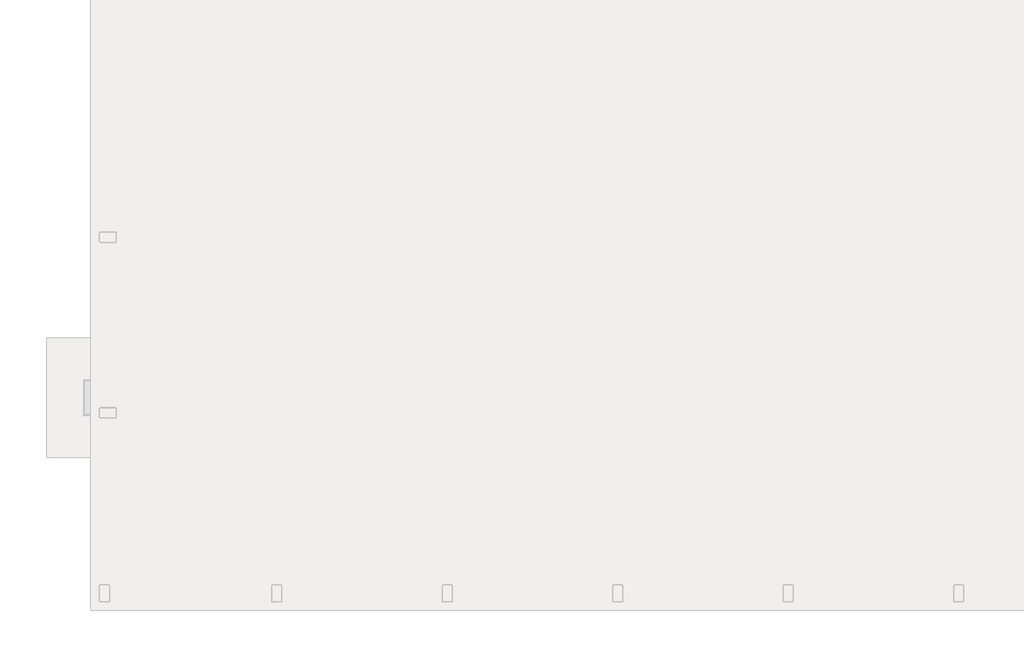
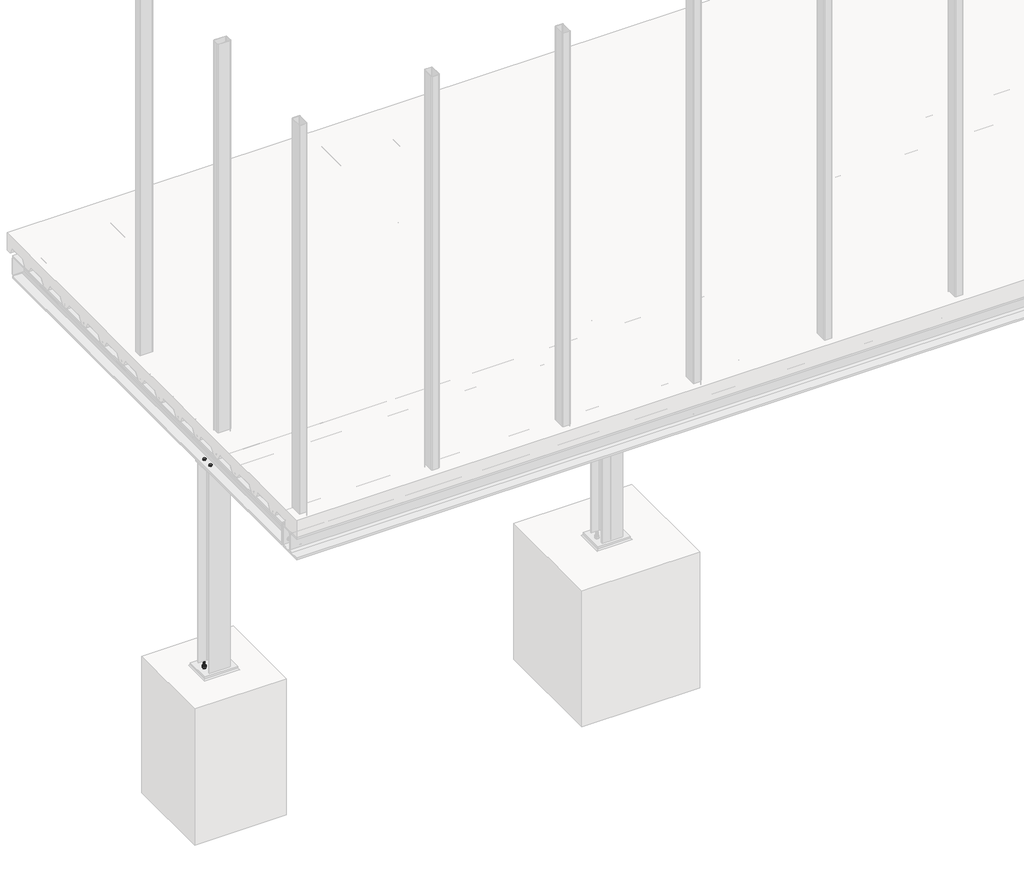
# One storey, part 7 of 36: 10 proxies.
"""IFC4 building model written with IfcOpenShell, lengths in millimetres."""

from ifc_helpers import new_model, si_unit, point, frame, frame_2d, origin, place, context, project, spatial, polyline, circle_curve, trimmed, segment, composite_curve, outline, extrude, element, save

model = new_model("IFC4")

# Units and contexts
model_context = context("Model", 3, world=origin())
ifc_project = project(units=[si_unit("LENGTHUNIT", "METRE", prefix="MILLI")], contexts=[model_context])

# Site, building, storey
site = spatial("IfcSite", under=ifc_project)
building = spatial("IfcBuilding", under=site)
storey = spatial("IfcBuildingStorey", under=building, Name="Základy", Elevation=-1200.0)

# Proxies
placement = place(None, origin())
element("IfcBuildingElementProxy", 1, Name="PLECH", ObjectType="PLECH", at=placement, inside=storey, context=model_context, shape_type="SweptSolid", body=[
    extrude(outline(polyline([(2940.0, 1200.0), (2940.0, 1320.0), (2950.0, 1320.0), (2950.0, 1200.0), (2940.0, 1200.0)])), frame((0.0, 0.0, -299.0), z_axis=(0.0, 0.0, 1.0), x_axis=(1.0, 0.0, 0.0)), (0.0, 0.0, 1.0), 98.0),
])
element("IfcBuildingElementProxy", 2, Name="PLECH", ObjectType="PLECH", at=placement, inside=storey, context=model_context, shape_type="SweptSolid", body=[
    extrude(outline(polyline([(3150.0, 1200.0), (3150.0, 1320.0), (3160.0, 1320.0), (3160.0, 1200.0), (3150.0, 1200.0)])), frame((0.0, 0.0, -299.0), z_axis=(0.0, 0.0, 1.0), x_axis=(1.0, 0.0, 0.0)), (0.0, 0.0, 1.0), 98.0),
])
element("IfcBuildingElementProxy", 3, Name="PLECH", ObjectType="PLECH", at=placement, inside=storey, context=model_context, shape_type="SweptSolid", body=[
    extrude(outline(polyline([(2950.0, 1200.0), (2950.0, 1320.0), (2960.0, 1320.0), (2960.0, 1200.0), (2950.0, 1200.0)])), frame((0.0, 0.0, -332.0), z_axis=(0.0, 0.0, 1.0), x_axis=(1.0, 0.0, 0.0)), (0.0, 0.0, 1.0), 164.0),
])
element("IfcBuildingElementProxy", 4, Name="PLECH", ObjectType="PLECH", at=placement, inside=storey, context=model_context, shape_type="SweptSolid", body=[
    extrude(outline(polyline([(2960.0, 210.0), (3140.0, 210.0), (3140.0, 200.0), (2960.0, 200.0), (2960.0, 210.0)])), frame((0.0, 0.0, -332.0), z_axis=(0.0, 0.0, 1.0), x_axis=(1.0, 0.0, 0.0)), (0.0, 0.0, 1.0), 164.0),
])
element("IfcBuildingElementProxy", 5, Name="PLECH", ObjectType="PLECH", at=placement, inside=storey, context=model_context, shape_type="SweptSolid", body=[
    extrude(outline(composite_curve([segment(polyline([(190.0, -174.0), (190.0, -326.0), (124.25, -326.0)]), True, "CONTINUOUS"), segment(trimmed(circle_curve(frame_2d((104.25, -326.0)), 20.0), [point((124.25, -326.0))], [point((104.25, -306.0))], True, "CARTESIAN"), True, "CONTINUOUS"), segment(polyline([(104.25, -306.0), (104.25, -194.0)]), True, "CONTINUOUS"), segment(trimmed(circle_curve(frame_2d((104.25, -174.0)), 20.0), [point((104.25, -194.0))], [point((124.25, -174.0))], True, "CARTESIAN"), True, "CONTINUOUS"), segment(polyline([(124.25, -174.0), (190.0, -174.0)]), True, "CONTINUOUS")], self_intersect=False)), frame((3046.0, 0.0, 0.0), z_axis=(1.0, 0.0, 0.0), x_axis=(0.0, 1.0, 0.0)), (0.0, 0.0, 1.0), 8.0),
])
element("IfcBuildingElementProxy", 6, Name="PLECH", ObjectType="PLECH", at=placement, inside=storey, context=model_context, shape_type="SweptSolid", body=[
    extrude(outline(polyline([(2960.0, 200.0), (3140.0, 200.0), (3140.0, 190.0), (2960.0, 190.0), (2960.0, 200.0)])), frame((0.0, 0.0, -332.0), z_axis=(0.0, 0.0, 1.0), x_axis=(1.0, 0.0, 0.0)), (0.0, 0.0, 1.0), 164.0),
])
element("IfcBuildingElementProxy", 7, Name="Bolt assembly", ObjectType="Bolt assembly", at=placement, inside=storey, context=model_context, shape_type="SweptSolid", body=[
    extrude(outline(composite_curve([segment(trimmed(circle_curve(frame_2d((1230.0, -225.0)), 6.5), [point((1230.0, -231.5))], [point((1230.0, -218.5))], False, "CARTESIAN"), True, "CONTINUOUS"), segment(trimmed(circle_curve(frame_2d((1230.0, -225.0)), 6.5), [point((1230.0, -218.5))], [point((1230.0, -231.5))], False, "CARTESIAN"), True, "CONTINUOUS")], self_intersect=False)), frame((2949.9, 0.0, 0.0), z_axis=(1.0, 0.0, 0.0), x_axis=(0.0, 1.0, 0.0)), (0.0, 0.0, 1.0), 10.0),
    extrude(outline(polyline([(1230.0, -235.3923048), (1221.0, -230.1961524), (1221.0, -219.8038476), (1230.0, -214.6076952), (1239.0, -219.8038476), (1239.0, -230.1961524), (1230.0, -235.3923048)])), frame((2962.5, 0.0, 0.0), z_axis=(1.0, 0.0, 0.0), x_axis=(0.0, 1.0, 0.0)), (0.0, 0.0, 1.0), 7.5),
    extrude(outline(composite_curve([segment(trimmed(circle_curve(frame_2d((1230.0, -225.0)), 6.0), [point((1230.0, -231.0))], [point((1230.0, -219.0))], False, "CARTESIAN"), True, "CONTINUOUS"), segment(trimmed(circle_curve(frame_2d((1230.0, -225.0)), 6.0), [point((1230.0, -219.0))], [point((1230.0, -231.0))], False, "CARTESIAN"), True, "CONTINUOUS")], self_intersect=False)), frame((2922.5, 0.0, 0.0), z_axis=(1.0, 0.0, 0.0), x_axis=(0.0, 1.0, 0.0)), (0.0, 0.0, 1.0), 40.0),
    extrude(outline(composite_curve([segment(trimmed(circle_curve(frame_2d((1230.0, -225.0)), 12.0), [point((1230.0, -237.0))], [point((1230.0, -213.0))], False, "CARTESIAN"), True, "CONTINUOUS"), segment(trimmed(circle_curve(frame_2d((1230.0, -225.0)), 12.0), [point((1230.0, -213.0))], [point((1230.0, -237.0))], False, "CARTESIAN"), True, "CONTINUOUS")], self_intersect=False)), frame((2960.0, 0.0, 0.0), z_axis=(1.0, 0.0, 0.0), x_axis=(0.0, 1.0, 0.0)), (0.0, 0.0, 1.0), 2.5),
    extrude(outline(composite_curve([segment(trimmed(circle_curve(frame_2d((1230.0, -225.0)), 12.0), [point((1230.0, -237.0))], [point((1230.0, -213.0))], False, "CARTESIAN"), True, "CONTINUOUS"), segment(trimmed(circle_curve(frame_2d((1230.0, -225.0)), 12.0), [point((1230.0, -213.0))], [point((1230.0, -237.0))], False, "CARTESIAN"), True, "CONTINUOUS")], self_intersect=False)), frame((2937.5, 0.0, 0.0), z_axis=(1.0, 0.0, 0.0), x_axis=(0.0, 1.0, 0.0)), (0.0, 0.0, 1.0), 2.5),
    extrude(outline(polyline([(1230.0, -235.9696551), (1220.5, -230.4848276), (1220.5, -219.5151724), (1230.0, -214.0303449), (1239.5, -219.5151724), (1239.5, -230.4848276), (1230.0, -235.9696551)])), frame((2927.5, 0.0, 0.0), z_axis=(1.0, 0.0, 0.0), x_axis=(0.0, 1.0, 0.0)), (0.0, 0.0, 1.0), 10.0),
    extrude(outline(composite_curve([segment(trimmed(circle_curve(frame_2d((1230.0, -225.0)), 6.5), [point((1230.0, -231.5))], [point((1230.0, -218.5))], False, "CARTESIAN"), True, "CONTINUOUS"), segment(trimmed(circle_curve(frame_2d((1230.0, -225.0)), 6.5), [point((1230.0, -218.5))], [point((1230.0, -231.5))], False, "CARTESIAN"), True, "CONTINUOUS")], self_intersect=False)), frame((2940.0, 0.0, 0.0), z_axis=(1.0, 0.0, 0.0), x_axis=(0.0, 1.0, 0.0)), (0.0, 0.0, 1.0), 10.1),
    extrude(outline(composite_curve([segment(trimmed(circle_curve(frame_2d((1230.0, -275.0)), 6.5), [point((1230.0, -281.5))], [point((1230.0, -268.5))], False, "CARTESIAN"), True, "CONTINUOUS"), segment(trimmed(circle_curve(frame_2d((1230.0, -275.0)), 6.5), [point((1230.0, -268.5))], [point((1230.0, -281.5))], False, "CARTESIAN"), True, "CONTINUOUS")], self_intersect=False)), frame((2949.9, 0.0, 0.0), z_axis=(1.0, 0.0, 0.0), x_axis=(0.0, 1.0, 0.0)), (0.0, 0.0, 1.0), 10.0),
    extrude(outline(polyline([(1230.0, -285.3923048), (1221.0, -280.1961524), (1221.0, -269.8038476), (1230.0, -264.6076952), (1239.0, -269.8038476), (1239.0, -280.1961524), (1230.0, -285.3923048)])), frame((2962.5, 0.0, 0.0), z_axis=(1.0, 0.0, 0.0), x_axis=(0.0, 1.0, 0.0)), (0.0, 0.0, 1.0), 7.5),
    extrude(outline(composite_curve([segment(trimmed(circle_curve(frame_2d((1230.0, -275.0)), 6.0), [point((1230.0, -281.0))], [point((1230.0, -269.0))], False, "CARTESIAN"), True, "CONTINUOUS"), segment(trimmed(circle_curve(frame_2d((1230.0, -275.0)), 6.0), [point((1230.0, -269.0))], [point((1230.0, -281.0))], False, "CARTESIAN"), True, "CONTINUOUS")], self_intersect=False)), frame((2922.5, 0.0, 0.0), z_axis=(1.0, 0.0, 0.0), x_axis=(0.0, 1.0, 0.0)), (0.0, 0.0, 1.0), 40.0),
    extrude(outline(composite_curve([segment(trimmed(circle_curve(frame_2d((1230.0, -275.0)), 12.0), [point((1230.0, -287.0))], [point((1230.0, -263.0))], False, "CARTESIAN"), True, "CONTINUOUS"), segment(trimmed(circle_curve(frame_2d((1230.0, -275.0)), 12.0), [point((1230.0, -263.0))], [point((1230.0, -287.0))], False, "CARTESIAN"), True, "CONTINUOUS")], self_intersect=False)), frame((2960.0, 0.0, 0.0), z_axis=(1.0, 0.0, 0.0), x_axis=(0.0, 1.0, 0.0)), (0.0, 0.0, 1.0), 2.5),
    extrude(outline(composite_curve([segment(trimmed(circle_curve(frame_2d((1230.0, -275.0)), 12.0), [point((1230.0, -287.0))], [point((1230.0, -263.0))], False, "CARTESIAN"), True, "CONTINUOUS"), segment(trimmed(circle_curve(frame_2d((1230.0, -275.0)), 12.0), [point((1230.0, -263.0))], [point((1230.0, -287.0))], False, "CARTESIAN"), True, "CONTINUOUS")], self_intersect=False)), frame((2937.5, 0.0, 0.0), z_axis=(1.0, 0.0, 0.0), x_axis=(0.0, 1.0, 0.0)), (0.0, 0.0, 1.0), 2.5),
    extrude(outline(polyline([(1230.0, -285.9696551), (1220.5, -280.4848276), (1220.5, -269.5151724), (1230.0, -264.0303449), (1239.5, -269.5151724), (1239.5, -280.4848276), (1230.0, -285.9696551)])), frame((2927.5, 0.0, 0.0), z_axis=(1.0, 0.0, 0.0), x_axis=(0.0, 1.0, 0.0)), (0.0, 0.0, 1.0), 10.0),
    extrude(outline(composite_curve([segment(trimmed(circle_curve(frame_2d((1230.0, -275.0)), 6.5), [point((1230.0, -281.5))], [point((1230.0, -268.5))], False, "CARTESIAN"), True, "CONTINUOUS"), segment(trimmed(circle_curve(frame_2d((1230.0, -275.0)), 6.5), [point((1230.0, -268.5))], [point((1230.0, -281.5))], False, "CARTESIAN"), True, "CONTINUOUS")], self_intersect=False)), frame((2940.0, 0.0, 0.0), z_axis=(1.0, 0.0, 0.0), x_axis=(0.0, 1.0, 0.0)), (0.0, 0.0, 1.0), 10.1),
    extrude(outline(composite_curve([segment(trimmed(circle_curve(frame_2d((1290.0, -225.0)), 6.5), [point((1290.0, -231.5))], [point((1290.0, -218.5))], False, "CARTESIAN"), True, "CONTINUOUS"), segment(trimmed(circle_curve(frame_2d((1290.0, -225.0)), 6.5), [point((1290.0, -218.5))], [point((1290.0, -231.5))], False, "CARTESIAN"), True, "CONTINUOUS")], self_intersect=False)), frame((2949.9, 0.0, 0.0), z_axis=(1.0, 0.0, 0.0), x_axis=(0.0, 1.0, 0.0)), (0.0, 0.0, 1.0), 10.0),
    extrude(outline(polyline([(1290.0, -235.3923048), (1281.0, -230.1961524), (1281.0, -219.8038476), (1290.0, -214.6076952), (1299.0, -219.8038476), (1299.0, -230.1961524), (1290.0, -235.3923048)])), frame((2962.5, 0.0, 0.0), z_axis=(1.0, 0.0, 0.0), x_axis=(0.0, 1.0, 0.0)), (0.0, 0.0, 1.0), 7.5),
    extrude(outline(composite_curve([segment(trimmed(circle_curve(frame_2d((1290.0, -225.0)), 6.0), [point((1290.0, -231.0))], [point((1290.0, -219.0))], False, "CARTESIAN"), True, "CONTINUOUS"), segment(trimmed(circle_curve(frame_2d((1290.0, -225.0)), 6.0), [point((1290.0, -219.0))], [point((1290.0, -231.0))], False, "CARTESIAN"), True, "CONTINUOUS")], self_intersect=False)), frame((2922.5, 0.0, 0.0), z_axis=(1.0, 0.0, 0.0), x_axis=(0.0, 1.0, 0.0)), (0.0, 0.0, 1.0), 40.0),
    extrude(outline(composite_curve([segment(trimmed(circle_curve(frame_2d((1290.0, -225.0)), 12.0), [point((1290.0, -237.0))], [point((1290.0, -213.0))], False, "CARTESIAN"), True, "CONTINUOUS"), segment(trimmed(circle_curve(frame_2d((1290.0, -225.0)), 12.0), [point((1290.0, -213.0))], [point((1290.0, -237.0))], False, "CARTESIAN"), True, "CONTINUOUS")], self_intersect=False)), frame((2960.0, 0.0, 0.0), z_axis=(1.0, 0.0, 0.0), x_axis=(0.0, 1.0, 0.0)), (0.0, 0.0, 1.0), 2.5),
    extrude(outline(composite_curve([segment(trimmed(circle_curve(frame_2d((1290.0, -225.0)), 12.0), [point((1290.0, -237.0))], [point((1290.0, -213.0))], False, "CARTESIAN"), True, "CONTINUOUS"), segment(trimmed(circle_curve(frame_2d((1290.0, -225.0)), 12.0), [point((1290.0, -213.0))], [point((1290.0, -237.0))], False, "CARTESIAN"), True, "CONTINUOUS")], self_intersect=False)), frame((2937.5, 0.0, 0.0), z_axis=(1.0, 0.0, 0.0), x_axis=(0.0, 1.0, 0.0)), (0.0, 0.0, 1.0), 2.5),
    extrude(outline(polyline([(1290.0, -235.9696551), (1280.5, -230.4848276), (1280.5, -219.5151724), (1290.0, -214.0303449), (1299.5, -219.5151724), (1299.5, -230.4848276), (1290.0, -235.9696551)])), frame((2927.5, 0.0, 0.0), z_axis=(1.0, 0.0, 0.0), x_axis=(0.0, 1.0, 0.0)), (0.0, 0.0, 1.0), 10.0),
    extrude(outline(composite_curve([segment(trimmed(circle_curve(frame_2d((1290.0, -225.0)), 6.5), [point((1290.0, -231.5))], [point((1290.0, -218.5))], False, "CARTESIAN"), True, "CONTINUOUS"), segment(trimmed(circle_curve(frame_2d((1290.0, -225.0)), 6.5), [point((1290.0, -218.5))], [point((1290.0, -231.5))], False, "CARTESIAN"), True, "CONTINUOUS")], self_intersect=False)), frame((2940.0, 0.0, 0.0), z_axis=(1.0, 0.0, 0.0), x_axis=(0.0, 1.0, 0.0)), (0.0, 0.0, 1.0), 10.1),
    extrude(outline(composite_curve([segment(trimmed(circle_curve(frame_2d((1290.0, -275.0)), 6.5), [point((1290.0, -281.5))], [point((1290.0, -268.5))], False, "CARTESIAN"), True, "CONTINUOUS"), segment(trimmed(circle_curve(frame_2d((1290.0, -275.0)), 6.5), [point((1290.0, -268.5))], [point((1290.0, -281.5))], False, "CARTESIAN"), True, "CONTINUOUS")], self_intersect=False)), frame((2949.9, 0.0, 0.0), z_axis=(1.0, 0.0, 0.0), x_axis=(0.0, 1.0, 0.0)), (0.0, 0.0, 1.0), 10.0),
    extrude(outline(polyline([(1290.0, -285.3923048), (1281.0, -280.1961524), (1281.0, -269.8038476), (1290.0, -264.6076952), (1299.0, -269.8038476), (1299.0, -280.1961524), (1290.0, -285.3923048)])), frame((2962.5, 0.0, 0.0), z_axis=(1.0, 0.0, 0.0), x_axis=(0.0, 1.0, 0.0)), (0.0, 0.0, 1.0), 7.5),
    extrude(outline(composite_curve([segment(trimmed(circle_curve(frame_2d((1290.0, -275.0)), 6.0), [point((1290.0, -281.0))], [point((1290.0, -269.0))], False, "CARTESIAN"), True, "CONTINUOUS"), segment(trimmed(circle_curve(frame_2d((1290.0, -275.0)), 6.0), [point((1290.0, -269.0))], [point((1290.0, -281.0))], False, "CARTESIAN"), True, "CONTINUOUS")], self_intersect=False)), frame((2922.5, 0.0, 0.0), z_axis=(1.0, 0.0, 0.0), x_axis=(0.0, 1.0, 0.0)), (0.0, 0.0, 1.0), 40.0),
    extrude(outline(composite_curve([segment(trimmed(circle_curve(frame_2d((1290.0, -275.0)), 12.0), [point((1290.0, -287.0))], [point((1290.0, -263.0))], False, "CARTESIAN"), True, "CONTINUOUS"), segment(trimmed(circle_curve(frame_2d((1290.0, -275.0)), 12.0), [point((1290.0, -263.0))], [point((1290.0, -287.0))], False, "CARTESIAN"), True, "CONTINUOUS")], self_intersect=False)), frame((2960.0, 0.0, 0.0), z_axis=(1.0, 0.0, 0.0), x_axis=(0.0, 1.0, 0.0)), (0.0, 0.0, 1.0), 2.5),
    extrude(outline(composite_curve([segment(trimmed(circle_curve(frame_2d((1290.0, -275.0)), 12.0), [point((1290.0, -287.0))], [point((1290.0, -263.0))], False, "CARTESIAN"), True, "CONTINUOUS"), segment(trimmed(circle_curve(frame_2d((1290.0, -275.0)), 12.0), [point((1290.0, -263.0))], [point((1290.0, -287.0))], False, "CARTESIAN"), True, "CONTINUOUS")], self_intersect=False)), frame((2937.5, 0.0, 0.0), z_axis=(1.0, 0.0, 0.0), x_axis=(0.0, 1.0, 0.0)), (0.0, 0.0, 1.0), 2.5),
    extrude(outline(polyline([(1290.0, -285.9696551), (1280.5, -280.4848276), (1280.5, -269.5151724), (1290.0, -264.0303449), (1299.5, -269.5151724), (1299.5, -280.4848276), (1290.0, -285.9696551)])), frame((2927.5, 0.0, 0.0), z_axis=(1.0, 0.0, 0.0), x_axis=(0.0, 1.0, 0.0)), (0.0, 0.0, 1.0), 10.0),
    extrude(outline(composite_curve([segment(trimmed(circle_curve(frame_2d((1290.0, -275.0)), 6.5), [point((1290.0, -281.5))], [point((1290.0, -268.5))], False, "CARTESIAN"), True, "CONTINUOUS"), segment(trimmed(circle_curve(frame_2d((1290.0, -275.0)), 6.5), [point((1290.0, -268.5))], [point((1290.0, -281.5))], False, "CARTESIAN"), True, "CONTINUOUS")], self_intersect=False)), frame((2940.0, 0.0, 0.0), z_axis=(1.0, 0.0, 0.0), x_axis=(0.0, 1.0, 0.0)), (0.0, 0.0, 1.0), 10.1),
])
element("IfcBuildingElementProxy", 8, Name="Bolt assembly", ObjectType="Bolt assembly", at=placement, inside=storey, context=model_context, shape_type="SweptSolid", body=[
    extrude(outline(composite_curve([segment(trimmed(circle_curve(frame_2d((-290.0, 3005.0)), 9.0), [point((-290.0, 3014.0))], [point((-290.0, 2996.0))], False, "CARTESIAN"), True, "CONTINUOUS"), segment(trimmed(circle_curve(frame_2d((-290.0, 3005.0)), 9.0), [point((-290.0, 2996.0))], [point((-290.0, 3014.0))], False, "CARTESIAN"), True, "CONTINUOUS")], self_intersect=False)), frame((0.0, 190.1, 0.0), z_axis=(0.0, 1.0, 0.0), x_axis=(0.0, 0.0, 1.0)), (0.0, 0.0, 1.0), 10.0),
    extrude(outline(polyline([(-290.0, 3018.8564065), (-278.0, 3011.9282032), (-278.0, 2998.0717968), (-290.0, 2991.1435935), (-302.0, 2998.0717968), (-302.0, 3011.9282032), (-290.0, 3018.8564065)])), frame((0.0, 177.0, 0.0), z_axis=(0.0, 1.0, 0.0), x_axis=(0.0, 0.0, 1.0)), (0.0, 0.0, 1.0), 10.0),
    extrude(outline(composite_curve([segment(trimmed(circle_curve(frame_2d((-290.0, 3005.0)), 8.0), [point((-290.0, 3013.0))], [point((-290.0, 2997.0))], False, "CARTESIAN"), True, "CONTINUOUS"), segment(trimmed(circle_curve(frame_2d((-290.0, 3005.0)), 8.0), [point((-290.0, 2997.0))], [point((-290.0, 3013.0))], False, "CARTESIAN"), True, "CONTINUOUS")], self_intersect=False)), frame((0.0, 187.0, 0.0), z_axis=(0.0, 1.0, 0.0), x_axis=(0.0, 0.0, 1.0)), (0.0, 0.0, 1.0), 50.0),
    extrude(outline(composite_curve([segment(trimmed(circle_curve(frame_2d((-290.0, 3005.0)), 15.0), [point((-290.0, 3020.0))], [point((-290.0, 2990.0))], False, "CARTESIAN"), True, "CONTINUOUS"), segment(trimmed(circle_curve(frame_2d((-290.0, 3005.0)), 15.0), [point((-290.0, 2990.0))], [point((-290.0, 3020.0))], False, "CARTESIAN"), True, "CONTINUOUS")], self_intersect=False)), frame((0.0, 187.0, 0.0), z_axis=(0.0, 1.0, 0.0), x_axis=(0.0, 0.0, 1.0)), (0.0, 0.0, 1.0), 3.0),
    extrude(outline(composite_curve([segment(trimmed(circle_curve(frame_2d((-290.0, 3005.0)), 15.0), [point((-290.0, 3020.0))], [point((-290.0, 2990.0))], False, "CARTESIAN"), True, "CONTINUOUS"), segment(trimmed(circle_curve(frame_2d((-290.0, 3005.0)), 15.0), [point((-290.0, 2990.0))], [point((-290.0, 3020.0))], False, "CARTESIAN"), True, "CONTINUOUS")], self_intersect=False)), frame((0.0, 210.0, 0.0), z_axis=(0.0, 1.0, 0.0), x_axis=(0.0, 0.0, 1.0)), (0.0, 0.0, 1.0), 3.0),
    extrude(outline(polyline([(-290.0, 3020.4441197), (-276.625, 3012.7220599), (-276.625, 2997.2779401), (-290.0, 2989.5558803), (-303.375, 2997.2779401), (-303.375, 3012.7220599), (-290.0, 3020.4441197)])), frame((0.0, 213.0, 0.0), z_axis=(0.0, 1.0, 0.0), x_axis=(0.0, 0.0, 1.0)), (0.0, 0.0, 1.0), 13.0),
    extrude(outline(composite_curve([segment(trimmed(circle_curve(frame_2d((-290.0, 3005.0)), 9.0), [point((-290.0, 3014.0))], [point((-290.0, 2996.0))], False, "CARTESIAN"), True, "CONTINUOUS"), segment(trimmed(circle_curve(frame_2d((-290.0, 3005.0)), 9.0), [point((-290.0, 2996.0))], [point((-290.0, 3014.0))], False, "CARTESIAN"), True, "CONTINUOUS")], self_intersect=False)), frame((0.0, 199.9, 0.0), z_axis=(0.0, 1.0, 0.0), x_axis=(0.0, 0.0, 1.0)), (0.0, 0.0, 1.0), 10.1),
    extrude(outline(composite_curve([segment(trimmed(circle_curve(frame_2d((-290.0, 3095.0)), 9.0), [point((-290.0, 3104.0))], [point((-290.0, 3086.0))], False, "CARTESIAN"), True, "CONTINUOUS"), segment(trimmed(circle_curve(frame_2d((-290.0, 3095.0)), 9.0), [point((-290.0, 3086.0))], [point((-290.0, 3104.0))], False, "CARTESIAN"), True, "CONTINUOUS")], self_intersect=False)), frame((0.0, 190.1, 0.0), z_axis=(0.0, 1.0, 0.0), x_axis=(0.0, 0.0, 1.0)), (0.0, 0.0, 1.0), 10.0),
    extrude(outline(polyline([(-290.0, 3108.8564065), (-278.0, 3101.9282032), (-278.0, 3088.0717968), (-290.0, 3081.1435935), (-302.0, 3088.0717968), (-302.0, 3101.9282032), (-290.0, 3108.8564065)])), frame((0.0, 177.0, 0.0), z_axis=(0.0, 1.0, 0.0), x_axis=(0.0, 0.0, 1.0)), (0.0, 0.0, 1.0), 10.0),
    extrude(outline(composite_curve([segment(trimmed(circle_curve(frame_2d((-290.0, 3095.0)), 8.0), [point((-290.0, 3103.0))], [point((-290.0, 3087.0))], False, "CARTESIAN"), True, "CONTINUOUS"), segment(trimmed(circle_curve(frame_2d((-290.0, 3095.0)), 8.0), [point((-290.0, 3087.0))], [point((-290.0, 3103.0))], False, "CARTESIAN"), True, "CONTINUOUS")], self_intersect=False)), frame((0.0, 187.0, 0.0), z_axis=(0.0, 1.0, 0.0), x_axis=(0.0, 0.0, 1.0)), (0.0, 0.0, 1.0), 50.0),
    extrude(outline(composite_curve([segment(trimmed(circle_curve(frame_2d((-290.0, 3095.0)), 15.0), [point((-290.0, 3110.0))], [point((-290.0, 3080.0))], False, "CARTESIAN"), True, "CONTINUOUS"), segment(trimmed(circle_curve(frame_2d((-290.0, 3095.0)), 15.0), [point((-290.0, 3080.0))], [point((-290.0, 3110.0))], False, "CARTESIAN"), True, "CONTINUOUS")], self_intersect=False)), frame((0.0, 187.0, 0.0), z_axis=(0.0, 1.0, 0.0), x_axis=(0.0, 0.0, 1.0)), (0.0, 0.0, 1.0), 3.0),
    extrude(outline(composite_curve([segment(trimmed(circle_curve(frame_2d((-290.0, 3095.0)), 15.0), [point((-290.0, 3110.0))], [point((-290.0, 3080.0))], False, "CARTESIAN"), True, "CONTINUOUS"), segment(trimmed(circle_curve(frame_2d((-290.0, 3095.0)), 15.0), [point((-290.0, 3080.0))], [point((-290.0, 3110.0))], False, "CARTESIAN"), True, "CONTINUOUS")], self_intersect=False)), frame((0.0, 210.0, 0.0), z_axis=(0.0, 1.0, 0.0), x_axis=(0.0, 0.0, 1.0)), (0.0, 0.0, 1.0), 3.0),
    extrude(outline(polyline([(-290.0, 3110.4441197), (-276.625, 3102.7220599), (-276.625, 3087.2779401), (-290.0, 3079.5558803), (-303.375, 3087.2779401), (-303.375, 3102.7220599), (-290.0, 3110.4441197)])), frame((0.0, 213.0, 0.0), z_axis=(0.0, 1.0, 0.0), x_axis=(0.0, 0.0, 1.0)), (0.0, 0.0, 1.0), 13.0),
    extrude(outline(composite_curve([segment(trimmed(circle_curve(frame_2d((-290.0, 3095.0)), 9.0), [point((-290.0, 3104.0))], [point((-290.0, 3086.0))], False, "CARTESIAN"), True, "CONTINUOUS"), segment(trimmed(circle_curve(frame_2d((-290.0, 3095.0)), 9.0), [point((-290.0, 3086.0))], [point((-290.0, 3104.0))], False, "CARTESIAN"), True, "CONTINUOUS")], self_intersect=False)), frame((0.0, 199.9, 0.0), z_axis=(0.0, 1.0, 0.0), x_axis=(0.0, 0.0, 1.0)), (0.0, 0.0, 1.0), 10.1),
    extrude(outline(composite_curve([segment(trimmed(circle_curve(frame_2d((-210.0, 3005.0)), 9.0), [point((-210.0, 3014.0))], [point((-210.0, 2996.0))], False, "CARTESIAN"), True, "CONTINUOUS"), segment(trimmed(circle_curve(frame_2d((-210.0, 3005.0)), 9.0), [point((-210.0, 2996.0))], [point((-210.0, 3014.0))], False, "CARTESIAN"), True, "CONTINUOUS")], self_intersect=False)), frame((0.0, 190.1, 0.0), z_axis=(0.0, 1.0, 0.0), x_axis=(0.0, 0.0, 1.0)), (0.0, 0.0, 1.0), 10.0),
    extrude(outline(polyline([(-210.0, 3018.8564065), (-198.0, 3011.9282032), (-198.0, 2998.0717968), (-210.0, 2991.1435935), (-222.0, 2998.0717968), (-222.0, 3011.9282032), (-210.0, 3018.8564065)])), frame((0.0, 177.0, 0.0), z_axis=(0.0, 1.0, 0.0), x_axis=(0.0, 0.0, 1.0)), (0.0, 0.0, 1.0), 10.0),
    extrude(outline(composite_curve([segment(trimmed(circle_curve(frame_2d((-210.0, 3005.0)), 8.0), [point((-210.0, 3013.0))], [point((-210.0, 2997.0))], False, "CARTESIAN"), True, "CONTINUOUS"), segment(trimmed(circle_curve(frame_2d((-210.0, 3005.0)), 8.0), [point((-210.0, 2997.0))], [point((-210.0, 3013.0))], False, "CARTESIAN"), True, "CONTINUOUS")], self_intersect=False)), frame((0.0, 187.0, 0.0), z_axis=(0.0, 1.0, 0.0), x_axis=(0.0, 0.0, 1.0)), (0.0, 0.0, 1.0), 50.0),
    extrude(outline(composite_curve([segment(trimmed(circle_curve(frame_2d((-210.0, 3005.0)), 15.0), [point((-210.0, 3020.0))], [point((-210.0, 2990.0))], False, "CARTESIAN"), True, "CONTINUOUS"), segment(trimmed(circle_curve(frame_2d((-210.0, 3005.0)), 15.0), [point((-210.0, 2990.0))], [point((-210.0, 3020.0))], False, "CARTESIAN"), True, "CONTINUOUS")], self_intersect=False)), frame((0.0, 187.0, 0.0), z_axis=(0.0, 1.0, 0.0), x_axis=(0.0, 0.0, 1.0)), (0.0, 0.0, 1.0), 3.0),
    extrude(outline(composite_curve([segment(trimmed(circle_curve(frame_2d((-210.0, 3005.0)), 15.0), [point((-210.0, 3020.0))], [point((-210.0, 2990.0))], False, "CARTESIAN"), True, "CONTINUOUS"), segment(trimmed(circle_curve(frame_2d((-210.0, 3005.0)), 15.0), [point((-210.0, 2990.0))], [point((-210.0, 3020.0))], False, "CARTESIAN"), True, "CONTINUOUS")], self_intersect=False)), frame((0.0, 210.0, 0.0), z_axis=(0.0, 1.0, 0.0), x_axis=(0.0, 0.0, 1.0)), (0.0, 0.0, 1.0), 3.0),
    extrude(outline(polyline([(-210.0, 3020.4441197), (-196.625, 3012.7220599), (-196.625, 2997.2779401), (-210.0, 2989.5558803), (-223.375, 2997.2779401), (-223.375, 3012.7220599), (-210.0, 3020.4441197)])), frame((0.0, 213.0, 0.0), z_axis=(0.0, 1.0, 0.0), x_axis=(0.0, 0.0, 1.0)), (0.0, 0.0, 1.0), 13.0),
    extrude(outline(composite_curve([segment(trimmed(circle_curve(frame_2d((-210.0, 3005.0)), 9.0), [point((-210.0, 3014.0))], [point((-210.0, 2996.0))], False, "CARTESIAN"), True, "CONTINUOUS"), segment(trimmed(circle_curve(frame_2d((-210.0, 3005.0)), 9.0), [point((-210.0, 2996.0))], [point((-210.0, 3014.0))], False, "CARTESIAN"), True, "CONTINUOUS")], self_intersect=False)), frame((0.0, 199.9, 0.0), z_axis=(0.0, 1.0, 0.0), x_axis=(0.0, 0.0, 1.0)), (0.0, 0.0, 1.0), 10.1),
    extrude(outline(composite_curve([segment(trimmed(circle_curve(frame_2d((-210.0, 3095.0)), 9.0), [point((-210.0, 3104.0))], [point((-210.0, 3086.0))], False, "CARTESIAN"), True, "CONTINUOUS"), segment(trimmed(circle_curve(frame_2d((-210.0, 3095.0)), 9.0), [point((-210.0, 3086.0))], [point((-210.0, 3104.0))], False, "CARTESIAN"), True, "CONTINUOUS")], self_intersect=False)), frame((0.0, 190.1, 0.0), z_axis=(0.0, 1.0, 0.0), x_axis=(0.0, 0.0, 1.0)), (0.0, 0.0, 1.0), 10.0),
    extrude(outline(polyline([(-210.0, 3108.8564065), (-198.0, 3101.9282032), (-198.0, 3088.0717968), (-210.0, 3081.1435935), (-222.0, 3088.0717968), (-222.0, 3101.9282032), (-210.0, 3108.8564065)])), frame((0.0, 177.0, 0.0), z_axis=(0.0, 1.0, 0.0), x_axis=(0.0, 0.0, 1.0)), (0.0, 0.0, 1.0), 10.0),
    extrude(outline(composite_curve([segment(trimmed(circle_curve(frame_2d((-210.0, 3095.0)), 8.0), [point((-210.0, 3103.0))], [point((-210.0, 3087.0))], False, "CARTESIAN"), True, "CONTINUOUS"), segment(trimmed(circle_curve(frame_2d((-210.0, 3095.0)), 8.0), [point((-210.0, 3087.0))], [point((-210.0, 3103.0))], False, "CARTESIAN"), True, "CONTINUOUS")], self_intersect=False)), frame((0.0, 187.0, 0.0), z_axis=(0.0, 1.0, 0.0), x_axis=(0.0, 0.0, 1.0)), (0.0, 0.0, 1.0), 50.0),
    extrude(outline(composite_curve([segment(trimmed(circle_curve(frame_2d((-210.0, 3095.0)), 15.0), [point((-210.0, 3110.0))], [point((-210.0, 3080.0))], False, "CARTESIAN"), True, "CONTINUOUS"), segment(trimmed(circle_curve(frame_2d((-210.0, 3095.0)), 15.0), [point((-210.0, 3080.0))], [point((-210.0, 3110.0))], False, "CARTESIAN"), True, "CONTINUOUS")], self_intersect=False)), frame((0.0, 187.0, 0.0), z_axis=(0.0, 1.0, 0.0), x_axis=(0.0, 0.0, 1.0)), (0.0, 0.0, 1.0), 3.0),
    extrude(outline(composite_curve([segment(trimmed(circle_curve(frame_2d((-210.0, 3095.0)), 15.0), [point((-210.0, 3110.0))], [point((-210.0, 3080.0))], False, "CARTESIAN"), True, "CONTINUOUS"), segment(trimmed(circle_curve(frame_2d((-210.0, 3095.0)), 15.0), [point((-210.0, 3080.0))], [point((-210.0, 3110.0))], False, "CARTESIAN"), True, "CONTINUOUS")], self_intersect=False)), frame((0.0, 210.0, 0.0), z_axis=(0.0, 1.0, 0.0), x_axis=(0.0, 0.0, 1.0)), (0.0, 0.0, 1.0), 3.0),
    extrude(outline(polyline([(-210.0, 3110.4441197), (-196.625, 3102.7220599), (-196.625, 3087.2779401), (-210.0, 3079.5558803), (-223.375, 3087.2779401), (-223.375, 3102.7220599), (-210.0, 3110.4441197)])), frame((0.0, 213.0, 0.0), z_axis=(0.0, 1.0, 0.0), x_axis=(0.0, 0.0, 1.0)), (0.0, 0.0, 1.0), 13.0),
    extrude(outline(composite_curve([segment(trimmed(circle_curve(frame_2d((-210.0, 3095.0)), 9.0), [point((-210.0, 3104.0))], [point((-210.0, 3086.0))], False, "CARTESIAN"), True, "CONTINUOUS"), segment(trimmed(circle_curve(frame_2d((-210.0, 3095.0)), 9.0), [point((-210.0, 3086.0))], [point((-210.0, 3104.0))], False, "CARTESIAN"), True, "CONTINUOUS")], self_intersect=False)), frame((0.0, 199.9, 0.0), z_axis=(0.0, 1.0, 0.0), x_axis=(0.0, 0.0, 1.0)), (0.0, 0.0, 1.0), 10.1),
])
element("IfcBuildingElementProxy", 9, Name="Bolt assembly", ObjectType="Bolt assembly", at=placement, inside=storey, context=model_context, shape_type="SweptSolid", body=[
    extrude(outline(composite_curve([segment(trimmed(circle_curve(frame_2d((0.0, 1220.0)), 6.5), [point((6.5, 1220.0))], [point((-6.5, 1220.0))], False, "CARTESIAN"), True, "CONTINUOUS"), segment(trimmed(circle_curve(frame_2d((0.0, 1220.0)), 6.5), [point((-6.5, 1220.0))], [point((6.5, 1220.0))], False, "CARTESIAN"), True, "CONTINUOUS")], self_intersect=False)), frame((0.0, 0.0, -350.0), z_axis=(0.0, 0.0, 1.0), x_axis=(1.0, 0.0, 0.0)), (0.0, 0.0, 1.0), 10.1),
    extrude(outline(polyline([(10.3923048, 1220.0), (5.1961524, 1211.0), (-5.1961524, 1211.0), (-10.3923048, 1220.0), (-5.1961524, 1229.0), (5.1961524, 1229.0), (10.3923048, 1220.0)])), frame((0.0, 0.0, -323.5), z_axis=(0.0, 0.0, 1.0), x_axis=(1.0, 0.0, 0.0)), (0.0, 0.0, 1.0), 7.5),
    extrude(outline(composite_curve([segment(trimmed(circle_curve(frame_2d((0.0, 1220.0)), 6.0), [point((6.0, 1220.0))], [point((-6.0, 1220.0))], False, "CARTESIAN"), True, "CONTINUOUS"), segment(trimmed(circle_curve(frame_2d((0.0, 1220.0)), 6.0), [point((-6.0, 1220.0))], [point((6.0, 1220.0))], False, "CARTESIAN"), True, "CONTINUOUS")], self_intersect=False)), frame((0.0, 0.0, -368.5), z_axis=(0.0, 0.0, 1.0), x_axis=(1.0, 0.0, 0.0)), (0.0, 0.0, 1.0), 45.0),
    extrude(outline(composite_curve([segment(trimmed(circle_curve(frame_2d((0.0, 1220.0)), 12.0), [point((12.0, 1220.0))], [point((-12.0, 1220.0))], False, "CARTESIAN"), True, "CONTINUOUS"), segment(trimmed(circle_curve(frame_2d((0.0, 1220.0)), 12.0), [point((-12.0, 1220.0))], [point((12.0, 1220.0))], False, "CARTESIAN"), True, "CONTINUOUS")], self_intersect=False)), frame((0.0, 0.0, -326.0), z_axis=(0.0, 0.0, 1.0), x_axis=(1.0, 0.0, 0.0)), (0.0, 0.0, 1.0), 2.5),
    extrude(outline(composite_curve([segment(trimmed(circle_curve(frame_2d((0.0, 1220.0)), 12.0), [point((12.0, 1220.0))], [point((-12.0, 1220.0))], False, "CARTESIAN"), True, "CONTINUOUS"), segment(trimmed(circle_curve(frame_2d((0.0, 1220.0)), 12.0), [point((-12.0, 1220.0))], [point((12.0, 1220.0))], False, "CARTESIAN"), True, "CONTINUOUS")], self_intersect=False)), frame((0.0, 0.0, -352.5), z_axis=(0.0, 0.0, 1.0), x_axis=(1.0, 0.0, 0.0)), (0.0, 0.0, 1.0), 2.5),
    extrude(outline(polyline([(10.9696551, 1220.0), (5.4848276, 1210.5), (-5.4848276, 1210.5), (-10.9696551, 1220.0), (-5.4848276, 1229.5), (5.4848276, 1229.5), (10.9696551, 1220.0)])), frame((0.0, 0.0, -362.5), z_axis=(0.0, 0.0, 1.0), x_axis=(1.0, 0.0, 0.0)), (0.0, 0.0, 1.0), 10.0),
    extrude(outline(composite_curve([segment(trimmed(circle_curve(frame_2d((0.0, 1220.0)), 6.5), [point((6.5, 1220.0))], [point((-6.5, 1220.0))], False, "CARTESIAN"), True, "CONTINUOUS"), segment(trimmed(circle_curve(frame_2d((0.0, 1220.0)), 6.5), [point((-6.5, 1220.0))], [point((6.5, 1220.0))], False, "CARTESIAN"), True, "CONTINUOUS")], self_intersect=False)), frame((0.0, 0.0, -340.1), z_axis=(0.0, 0.0, 1.0), x_axis=(1.0, 0.0, 0.0)), (0.0, 0.0, 1.0), 14.0),
    extrude(outline(composite_curve([segment(trimmed(circle_curve(frame_2d((100.0, 1220.0)), 6.5), [point((106.5, 1220.0))], [point((93.5, 1220.0))], False, "CARTESIAN"), True, "CONTINUOUS"), segment(trimmed(circle_curve(frame_2d((100.0, 1220.0)), 6.5), [point((93.5, 1220.0))], [point((106.5, 1220.0))], False, "CARTESIAN"), True, "CONTINUOUS")], self_intersect=False)), frame((0.0, 0.0, -350.0), z_axis=(0.0, 0.0, 1.0), x_axis=(1.0, 0.0, 0.0)), (0.0, 0.0, 1.0), 10.1),
    extrude(outline(polyline([(110.3923048, 1220.0), (105.1961524, 1211.0), (94.8038476, 1211.0), (89.6076952, 1220.0), (94.8038476, 1229.0), (105.1961524, 1229.0), (110.3923048, 1220.0)])), frame((0.0, 0.0, -323.5), z_axis=(0.0, 0.0, 1.0), x_axis=(1.0, 0.0, 0.0)), (0.0, 0.0, 1.0), 7.5),
    extrude(outline(composite_curve([segment(trimmed(circle_curve(frame_2d((100.0, 1220.0)), 6.0), [point((106.0, 1220.0))], [point((94.0, 1220.0))], False, "CARTESIAN"), True, "CONTINUOUS"), segment(trimmed(circle_curve(frame_2d((100.0, 1220.0)), 6.0), [point((94.0, 1220.0))], [point((106.0, 1220.0))], False, "CARTESIAN"), True, "CONTINUOUS")], self_intersect=False)), frame((0.0, 0.0, -368.5), z_axis=(0.0, 0.0, 1.0), x_axis=(1.0, 0.0, 0.0)), (0.0, 0.0, 1.0), 45.0),
    extrude(outline(composite_curve([segment(trimmed(circle_curve(frame_2d((100.0, 1220.0)), 12.0), [point((112.0, 1220.0))], [point((88.0, 1220.0))], False, "CARTESIAN"), True, "CONTINUOUS"), segment(trimmed(circle_curve(frame_2d((100.0, 1220.0)), 12.0), [point((88.0, 1220.0))], [point((112.0, 1220.0))], False, "CARTESIAN"), True, "CONTINUOUS")], self_intersect=False)), frame((0.0, 0.0, -326.0), z_axis=(0.0, 0.0, 1.0), x_axis=(1.0, 0.0, 0.0)), (0.0, 0.0, 1.0), 2.5),
    extrude(outline(composite_curve([segment(trimmed(circle_curve(frame_2d((100.0, 1220.0)), 12.0), [point((112.0, 1220.0))], [point((88.0, 1220.0))], False, "CARTESIAN"), True, "CONTINUOUS"), segment(trimmed(circle_curve(frame_2d((100.0, 1220.0)), 12.0), [point((88.0, 1220.0))], [point((112.0, 1220.0))], False, "CARTESIAN"), True, "CONTINUOUS")], self_intersect=False)), frame((0.0, 0.0, -352.5), z_axis=(0.0, 0.0, 1.0), x_axis=(1.0, 0.0, 0.0)), (0.0, 0.0, 1.0), 2.5),
    extrude(outline(polyline([(110.9696551, 1220.0), (105.4848276, 1210.5), (94.5151724, 1210.5), (89.0303449, 1220.0), (94.5151724, 1229.5), (105.4848276, 1229.5), (110.9696551, 1220.0)])), frame((0.0, 0.0, -362.5), z_axis=(0.0, 0.0, 1.0), x_axis=(1.0, 0.0, 0.0)), (0.0, 0.0, 1.0), 10.0),
    extrude(outline(composite_curve([segment(trimmed(circle_curve(frame_2d((100.0, 1220.0)), 6.5), [point((106.5, 1220.0))], [point((93.5, 1220.0))], False, "CARTESIAN"), True, "CONTINUOUS"), segment(trimmed(circle_curve(frame_2d((100.0, 1220.0)), 6.5), [point((93.5, 1220.0))], [point((106.5, 1220.0))], False, "CARTESIAN"), True, "CONTINUOUS")], self_intersect=False)), frame((0.0, 0.0, -340.1), z_axis=(0.0, 0.0, 1.0), x_axis=(1.0, 0.0, 0.0)), (0.0, 0.0, 1.0), 14.0),
    extrude(outline(composite_curve([segment(trimmed(circle_curve(frame_2d((0.0, 1300.0)), 6.5), [point((6.5, 1300.0))], [point((-6.5, 1300.0))], False, "CARTESIAN"), True, "CONTINUOUS"), segment(trimmed(circle_curve(frame_2d((0.0, 1300.0)), 6.5), [point((-6.5, 1300.0))], [point((6.5, 1300.0))], False, "CARTESIAN"), True, "CONTINUOUS")], self_intersect=False)), frame((0.0, 0.0, -350.0), z_axis=(0.0, 0.0, 1.0), x_axis=(1.0, 0.0, 0.0)), (0.0, 0.0, 1.0), 10.1),
    extrude(outline(polyline([(10.3923048, 1300.0), (5.1961524, 1291.0), (-5.1961524, 1291.0), (-10.3923048, 1300.0), (-5.1961524, 1309.0), (5.1961524, 1309.0), (10.3923048, 1300.0)])), frame((0.0, 0.0, -323.5), z_axis=(0.0, 0.0, 1.0), x_axis=(1.0, 0.0, 0.0)), (0.0, 0.0, 1.0), 7.5),
    extrude(outline(composite_curve([segment(trimmed(circle_curve(frame_2d((0.0, 1300.0)), 6.0), [point((6.0, 1300.0))], [point((-6.0, 1300.0))], False, "CARTESIAN"), True, "CONTINUOUS"), segment(trimmed(circle_curve(frame_2d((0.0, 1300.0)), 6.0), [point((-6.0, 1300.0))], [point((6.0, 1300.0))], False, "CARTESIAN"), True, "CONTINUOUS")], self_intersect=False)), frame((0.0, 0.0, -368.5), z_axis=(0.0, 0.0, 1.0), x_axis=(1.0, 0.0, 0.0)), (0.0, 0.0, 1.0), 45.0),
    extrude(outline(composite_curve([segment(trimmed(circle_curve(frame_2d((0.0, 1300.0)), 12.0), [point((12.0, 1300.0))], [point((-12.0, 1300.0))], False, "CARTESIAN"), True, "CONTINUOUS"), segment(trimmed(circle_curve(frame_2d((0.0, 1300.0)), 12.0), [point((-12.0, 1300.0))], [point((12.0, 1300.0))], False, "CARTESIAN"), True, "CONTINUOUS")], self_intersect=False)), frame((0.0, 0.0, -326.0), z_axis=(0.0, 0.0, 1.0), x_axis=(1.0, 0.0, 0.0)), (0.0, 0.0, 1.0), 2.5),
    extrude(outline(composite_curve([segment(trimmed(circle_curve(frame_2d((0.0, 1300.0)), 12.0), [point((12.0, 1300.0))], [point((-12.0, 1300.0))], False, "CARTESIAN"), True, "CONTINUOUS"), segment(trimmed(circle_curve(frame_2d((0.0, 1300.0)), 12.0), [point((-12.0, 1300.0))], [point((12.0, 1300.0))], False, "CARTESIAN"), True, "CONTINUOUS")], self_intersect=False)), frame((0.0, 0.0, -352.5), z_axis=(0.0, 0.0, 1.0), x_axis=(1.0, 0.0, 0.0)), (0.0, 0.0, 1.0), 2.5),
    extrude(outline(polyline([(10.9696551, 1300.0), (5.4848276, 1290.5), (-5.4848276, 1290.5), (-10.9696551, 1300.0), (-5.4848276, 1309.5), (5.4848276, 1309.5), (10.9696551, 1300.0)])), frame((0.0, 0.0, -362.5), z_axis=(0.0, 0.0, 1.0), x_axis=(1.0, 0.0, 0.0)), (0.0, 0.0, 1.0), 10.0),
    extrude(outline(composite_curve([segment(trimmed(circle_curve(frame_2d((0.0, 1300.0)), 6.5), [point((6.5, 1300.0))], [point((-6.5, 1300.0))], False, "CARTESIAN"), True, "CONTINUOUS"), segment(trimmed(circle_curve(frame_2d((0.0, 1300.0)), 6.5), [point((-6.5, 1300.0))], [point((6.5, 1300.0))], False, "CARTESIAN"), True, "CONTINUOUS")], self_intersect=False)), frame((0.0, 0.0, -340.1), z_axis=(0.0, 0.0, 1.0), x_axis=(1.0, 0.0, 0.0)), (0.0, 0.0, 1.0), 14.0),
    extrude(outline(composite_curve([segment(trimmed(circle_curve(frame_2d((100.0, 1300.0)), 6.5), [point((106.5, 1300.0))], [point((93.5, 1300.0))], False, "CARTESIAN"), True, "CONTINUOUS"), segment(trimmed(circle_curve(frame_2d((100.0, 1300.0)), 6.5), [point((93.5, 1300.0))], [point((106.5, 1300.0))], False, "CARTESIAN"), True, "CONTINUOUS")], self_intersect=False)), frame((0.0, 0.0, -350.0), z_axis=(0.0, 0.0, 1.0), x_axis=(1.0, 0.0, 0.0)), (0.0, 0.0, 1.0), 10.1),
    extrude(outline(polyline([(110.3923048, 1300.0), (105.1961524, 1291.0), (94.8038476, 1291.0), (89.6076952, 1300.0), (94.8038476, 1309.0), (105.1961524, 1309.0), (110.3923048, 1300.0)])), frame((0.0, 0.0, -323.5), z_axis=(0.0, 0.0, 1.0), x_axis=(1.0, 0.0, 0.0)), (0.0, 0.0, 1.0), 7.5),
    extrude(outline(composite_curve([segment(trimmed(circle_curve(frame_2d((100.0, 1300.0)), 6.0), [point((106.0, 1300.0))], [point((94.0, 1300.0))], False, "CARTESIAN"), True, "CONTINUOUS"), segment(trimmed(circle_curve(frame_2d((100.0, 1300.0)), 6.0), [point((94.0, 1300.0))], [point((106.0, 1300.0))], False, "CARTESIAN"), True, "CONTINUOUS")], self_intersect=False)), frame((0.0, 0.0, -368.5), z_axis=(0.0, 0.0, 1.0), x_axis=(1.0, 0.0, 0.0)), (0.0, 0.0, 1.0), 45.0),
    extrude(outline(composite_curve([segment(trimmed(circle_curve(frame_2d((100.0, 1300.0)), 12.0), [point((112.0, 1300.0))], [point((88.0, 1300.0))], False, "CARTESIAN"), True, "CONTINUOUS"), segment(trimmed(circle_curve(frame_2d((100.0, 1300.0)), 12.0), [point((88.0, 1300.0))], [point((112.0, 1300.0))], False, "CARTESIAN"), True, "CONTINUOUS")], self_intersect=False)), frame((0.0, 0.0, -326.0), z_axis=(0.0, 0.0, 1.0), x_axis=(1.0, 0.0, 0.0)), (0.0, 0.0, 1.0), 2.5),
    extrude(outline(composite_curve([segment(trimmed(circle_curve(frame_2d((100.0, 1300.0)), 12.0), [point((112.0, 1300.0))], [point((88.0, 1300.0))], False, "CARTESIAN"), True, "CONTINUOUS"), segment(trimmed(circle_curve(frame_2d((100.0, 1300.0)), 12.0), [point((88.0, 1300.0))], [point((112.0, 1300.0))], False, "CARTESIAN"), True, "CONTINUOUS")], self_intersect=False)), frame((0.0, 0.0, -352.5), z_axis=(0.0, 0.0, 1.0), x_axis=(1.0, 0.0, 0.0)), (0.0, 0.0, 1.0), 2.5),
    extrude(outline(polyline([(110.9696551, 1300.0), (105.4848276, 1290.5), (94.5151724, 1290.5), (89.0303449, 1300.0), (94.5151724, 1309.5), (105.4848276, 1309.5), (110.9696551, 1300.0)])), frame((0.0, 0.0, -362.5), z_axis=(0.0, 0.0, 1.0), x_axis=(1.0, 0.0, 0.0)), (0.0, 0.0, 1.0), 10.0),
    extrude(outline(composite_curve([segment(trimmed(circle_curve(frame_2d((100.0, 1300.0)), 6.5), [point((106.5, 1300.0))], [point((93.5, 1300.0))], False, "CARTESIAN"), True, "CONTINUOUS"), segment(trimmed(circle_curve(frame_2d((100.0, 1300.0)), 6.5), [point((93.5, 1300.0))], [point((106.5, 1300.0))], False, "CARTESIAN"), True, "CONTINUOUS")], self_intersect=False)), frame((0.0, 0.0, -340.1), z_axis=(0.0, 0.0, 1.0), x_axis=(1.0, 0.0, 0.0)), (0.0, 0.0, 1.0), 14.0),
])
element("IfcBuildingElementProxy", 10, Name="Bolt assembly", ObjectType="Bolt assembly", at=placement, inside=storey, context=model_context, shape_type="SweptSolid", body=[
    extrude(outline(polyline([(-17.2635066, 1260.0), (-21.1317533, 1253.3000002), (-28.8682467, 1253.3000002), (-32.7364934, 1260.0), (-28.8682467, 1266.6999998), (-21.1317533, 1266.6999998), (-17.2635066, 1260.0)])), frame((0.0, 0.0, -2122.0), z_axis=(0.0, 0.0, 1.0), x_axis=(1.0, 0.0, 0.0)), (0.0, 0.0, 1.0), 132.0),
    extrude(outline(composite_curve([segment(trimmed(circle_curve(frame_2d((-25.0, 1260.0)), 8.0), [point((-17.0, 1260.0))], [point((-33.0, 1260.0))], False, "CARTESIAN"), True, "CONTINUOUS"), segment(trimmed(circle_curve(frame_2d((-25.0, 1260.0)), 8.0), [point((-33.0, 1260.0))], [point((-17.0, 1260.0))], False, "CARTESIAN"), True, "CONTINUOUS")], self_intersect=False)), frame((0.0, 0.0, -1990.0), z_axis=(0.0, 0.0, 1.0), x_axis=(1.0, 0.0, 0.0)), (0.0, 0.0, 1.0), 58.0),
    extrude(outline(composite_curve([segment(trimmed(circle_curve(frame_2d((-25.0, 1260.0)), 15.0), [point((-10.0, 1260.0))], [point((-40.0, 1260.0))], False, "CARTESIAN"), True, "CONTINUOUS"), segment(trimmed(circle_curve(frame_2d((-25.0, 1260.0)), 15.0), [point((-40.0, 1260.0))], [point((-10.0, 1260.0))], False, "CARTESIAN"), True, "CONTINUOUS")], self_intersect=False)), frame((0.0, 0.0, -1975.0), z_axis=(0.0, 0.0, 1.0), x_axis=(1.0, 0.0, 0.0)), (0.0, 0.0, 1.0), 3.0),
    extrude(outline(polyline([(-9.5558803, 1260.0), (-17.2779401, 1246.625), (-32.7220599, 1246.625), (-40.4441197, 1260.0), (-32.7220599, 1273.375), (-17.2779401, 1273.375), (-9.5558803, 1260.0)])), frame((0.0, 0.0, -1972.0), z_axis=(0.0, 0.0, 1.0), x_axis=(1.0, 0.0, 0.0)), (0.0, 0.0, 1.0), 13.0),
    extrude(outline(composite_curve([segment(trimmed(circle_curve(frame_2d((-25.0, 1260.0)), 9.0), [point((-16.0, 1260.0))], [point((-34.0, 1260.0))], False, "CARTESIAN"), True, "CONTINUOUS"), segment(trimmed(circle_curve(frame_2d((-25.0, 1260.0)), 9.0), [point((-34.0, 1260.0))], [point((-16.0, 1260.0))], False, "CARTESIAN"), True, "CONTINUOUS")], self_intersect=False)), frame((0.0, 0.0, -1990.0), z_axis=(0.0, 0.0, 1.0), x_axis=(1.0, 0.0, 0.0)), (0.0, 0.0, 1.0), 15.1),
    extrude(outline(polyline([(132.7364934, 1260.0), (128.8682467, 1253.3000002), (121.1317533, 1253.3000002), (117.2635066, 1260.0), (121.1317533, 1266.6999998), (128.8682467, 1266.6999998), (132.7364934, 1260.0)])), frame((0.0, 0.0, -2122.0), z_axis=(0.0, 0.0, 1.0), x_axis=(1.0, 0.0, 0.0)), (0.0, 0.0, 1.0), 132.0),
    extrude(outline(composite_curve([segment(trimmed(circle_curve(frame_2d((125.0, 1260.0)), 8.0), [point((133.0, 1260.0))], [point((117.0, 1260.0))], False, "CARTESIAN"), True, "CONTINUOUS"), segment(trimmed(circle_curve(frame_2d((125.0, 1260.0)), 8.0), [point((117.0, 1260.0))], [point((133.0, 1260.0))], False, "CARTESIAN"), True, "CONTINUOUS")], self_intersect=False)), frame((0.0, 0.0, -1990.0), z_axis=(0.0, 0.0, 1.0), x_axis=(1.0, 0.0, 0.0)), (0.0, 0.0, 1.0), 58.0),
    extrude(outline(composite_curve([segment(trimmed(circle_curve(frame_2d((125.0, 1260.0)), 15.0), [point((140.0, 1260.0))], [point((110.0, 1260.0))], False, "CARTESIAN"), True, "CONTINUOUS"), segment(trimmed(circle_curve(frame_2d((125.0, 1260.0)), 15.0), [point((110.0, 1260.0))], [point((140.0, 1260.0))], False, "CARTESIAN"), True, "CONTINUOUS")], self_intersect=False)), frame((0.0, 0.0, -1975.0), z_axis=(0.0, 0.0, 1.0), x_axis=(1.0, 0.0, 0.0)), (0.0, 0.0, 1.0), 3.0),
    extrude(outline(polyline([(140.4441197, 1260.0), (132.7220599, 1246.625), (117.2779401, 1246.625), (109.5558803, 1260.0), (117.2779401, 1273.375), (132.7220599, 1273.375), (140.4441197, 1260.0)])), frame((0.0, 0.0, -1972.0), z_axis=(0.0, 0.0, 1.0), x_axis=(1.0, 0.0, 0.0)), (0.0, 0.0, 1.0), 13.0),
    extrude(outline(composite_curve([segment(trimmed(circle_curve(frame_2d((125.0, 1260.0)), 9.0), [point((134.0, 1260.0))], [point((116.0, 1260.0))], False, "CARTESIAN"), True, "CONTINUOUS"), segment(trimmed(circle_curve(frame_2d((125.0, 1260.0)), 9.0), [point((116.0, 1260.0))], [point((134.0, 1260.0))], False, "CARTESIAN"), True, "CONTINUOUS")], self_intersect=False)), frame((0.0, 0.0, -1990.0), z_axis=(0.0, 0.0, 1.0), x_axis=(1.0, 0.0, 0.0)), (0.0, 0.0, 1.0), 15.1),
])

save(model, "model.ifc")
